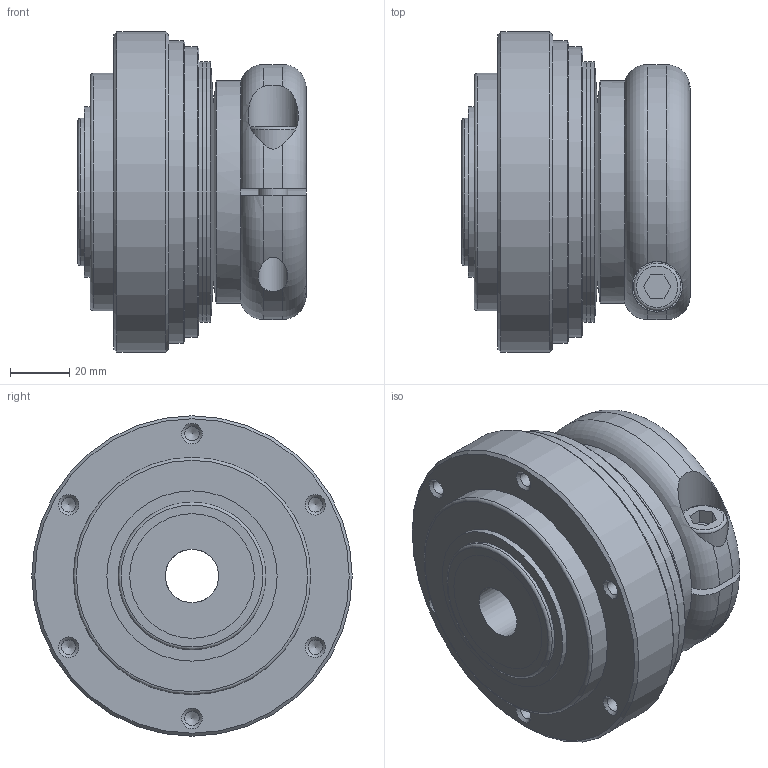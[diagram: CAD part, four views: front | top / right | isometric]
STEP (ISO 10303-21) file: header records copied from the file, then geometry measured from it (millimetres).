
FILE_DESCRIPTION(/* description */ ('Unknown'),/* implementation_level */ '2;1');
FILE_NAME(/* name */ 'SKVA-K 220',/* time_stamp */ '2025-02-12T11:35:30+01:00',/* author */ ('Unknown'),/* organization */ ('Unknown'),/* preprocessor_version */ 'ST-DEVELOPER v18.102',/* originating_system */ 'Solid Edge',/* authorisation */ 'Unknown');
FILE_SCHEMA (('AUTOMOTIVE_DESIGN {1 0 10303 214 3 1 1}'));
Length unit declared in the file: millimetre
Products named in the file (1): SKVA-K 220
Bounding box: 76.97 x 108 x 108 mm (x, y, z)
Volume: 460384 mm3; surface area: 51921.8 mm2
Topology: 1 solids, 2 shells, 80 faces, 187 edges, 118 vertices
Faces by surface type: cone 27, cylinder 25, plane 23, torus 5
Full cylindrical faces by diameter (mm): 4.917 x12, 10 x3, 16 x1, 17 x1, 18 x1, 49.8 x1, 57.4 x1, 75 x1, 80 x1, 98 x1, 102 x1, 108 x1
Entity records: 2465 total; most frequent: CARTESIAN_POINT 371, DIRECTION 330, ORIENTED_EDGE 220, AXIS2_PLACEMENT_3D 153, FACE_BOUND 149, EDGE_LOOP 143, EDGE_CURVE 110, VERTEX_POINT 99
